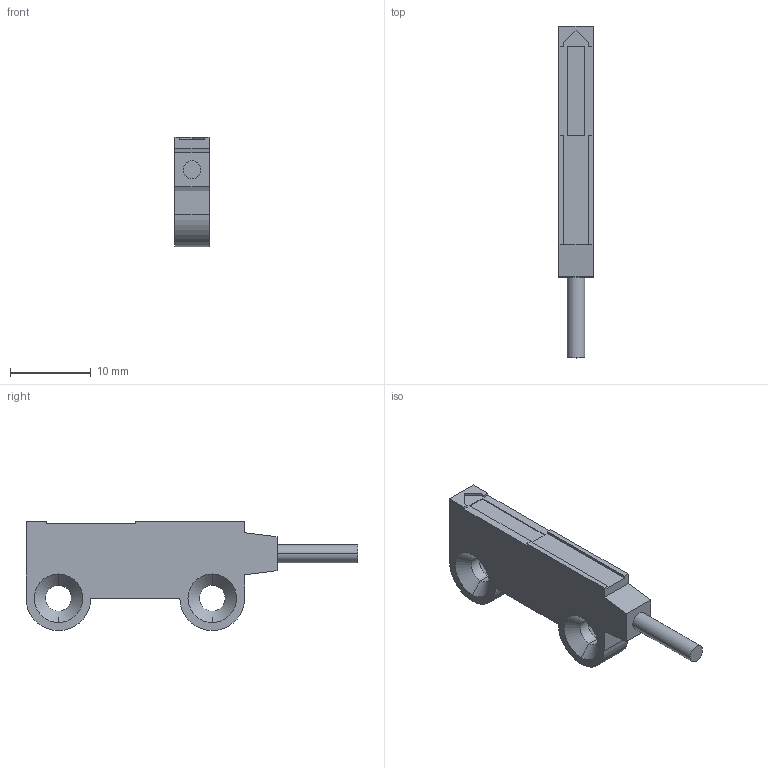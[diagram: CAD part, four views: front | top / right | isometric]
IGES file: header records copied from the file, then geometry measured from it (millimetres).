
Start section: SolidWorks IGES FILE using analytic representation for surfaces
Global section: file name: C:\Documents and Settings\MF1158\デスクトップ\FT-A8.IGS; native system: SolidWorks 2004 by SolidWorks Corporation; preprocessor: Version 5.3; author: MF1158; date: 051024.101340; units: millimetre
Bounding box: 4.2 x 41 x 13.5 mm (x, y, z)
Volume: 1257.4 mm3; surface area: 1129.9 mm2
Topology: 1 solids, 1 shells, 47 faces, 121 edges, 78 vertices
Faces by surface type: plane 29, revolution 18
